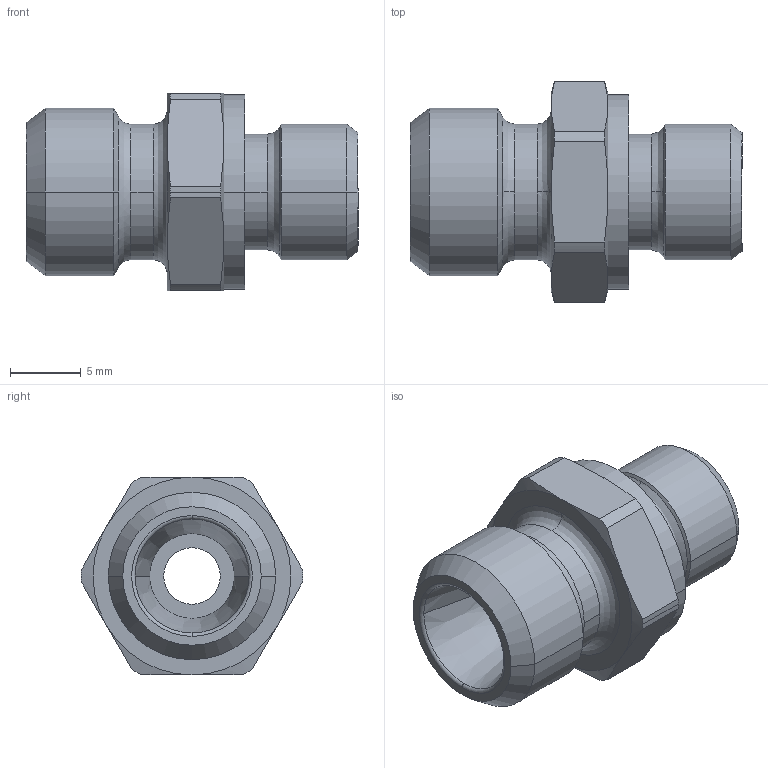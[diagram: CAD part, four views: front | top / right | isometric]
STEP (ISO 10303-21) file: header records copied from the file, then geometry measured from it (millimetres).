
FILE_DESCRIPTION((''),'2;1');
FILE_NAME('100504.stp','2007-10-30T14:18:11',(''),(''),'AutoCAD STEP 2000i','AutoCAD 2000i',', , ');
FILE_SCHEMA(('CONFIG_CONTROL_DESIGN'));
Length unit declared in the file: millimetre
Products named in the file (2): 100504.0; CHIAVE SMUSSATA#0
Assembly tree (1 placements, depth 2):
  100504.0
    CHIAVE SMUSSATA#0
Bounding box: 23.5 x 15.7 x 14 mm (x, y, z)
Volume: 1852.1 mm3; surface area: 1539.4 mm2
Topology: 1 solids, 1 shells, 75 faces, 185 edges, 117 vertices
Faces by surface type: cylinder 24, cone 24, plane 13, bspline 12, torus 2
Entity records: 2835 total; most frequent: CARTESIAN_POINT 955, DIRECTION 410, ORIENTED_EDGE 370, EDGE_CURVE 185, AXIS2_PLACEMENT_3D 184, CIRCLE 119, VERTEX_POINT 117, EDGE_LOOP 82
